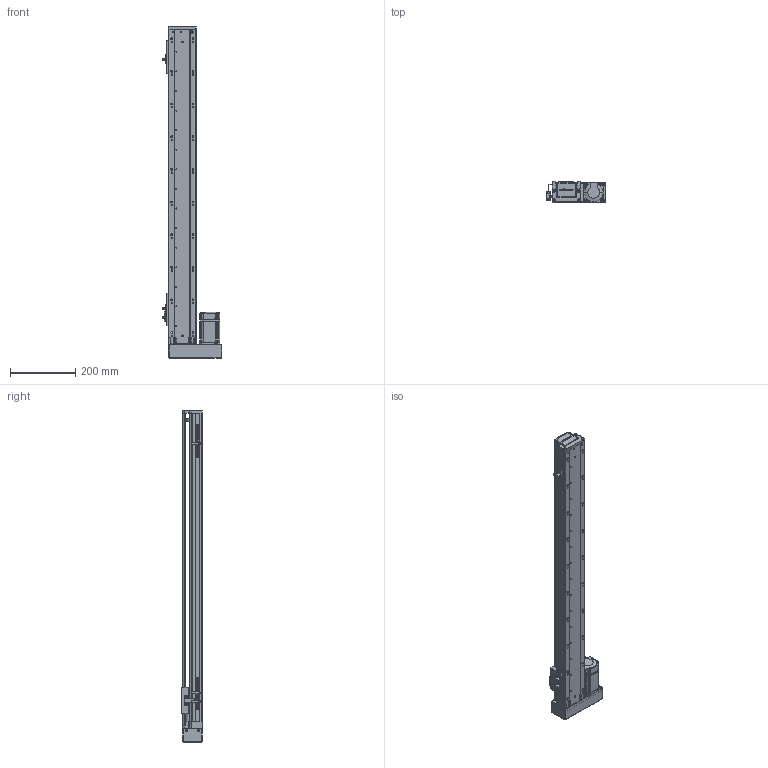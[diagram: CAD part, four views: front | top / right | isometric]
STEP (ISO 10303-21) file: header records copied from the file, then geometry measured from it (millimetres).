
FILE_DESCRIPTION (( 'STEP AP203' ), '1' );
FILE_NAME ('RY80-L1620-300-LK.SLDASM_800.step', '2021-02-20T07:17:17', ( '盈信电脑' ), ( '东莞市道滘镇水果街19号' ), 'SwSTEP 2.0', 'SolidWorks 2012', '' );
FILE_SCHEMA (( 'CONFIG_CONTROL_DESIGN' ));
Products named in the file (15): RY80-L1620-300-LK.SLDASM_800; 覜茼ん672; RY80俋离覜茼え; T倰羞; 滅袉蝶18-24; RY80酘莞萇儂假蚾啣; 侂狟200W萇儂; RY80酘殏俋欶; RY80转接电机端支撑座; RY80綴裔啣; 1; 滅袉蝶18-10; RY80-300蛌諉倰第菁釱-LK_800; RY80臏賑輸; RY80-300蛌諉倰第奻裔啣-LK_800
Assembly tree (17 placements, depth 3):
  RY80-L1620-300-LK.SLDASM_800
    RY80-300蛌諉倰第菁釱-LK_800
    RY80臏賑輸
    RY80-300蛌諉倰第奻裔啣-LK_800
    RY80綴裔啣
    滅袉蝶18-10
    RY80转接电机端支撑座
    侂狟200W萇儂
      1
    RY80酘莞萇儂假蚾啣
    RY80酘殏俋欶
    覜茼ん672  x3
    T倰羞  x2
    RY80俋离覜茼え
    滅袉蝶18-24
Bounding box: 181.7 x 65 x 1017 mm (x, y, z)
Volume: 1881598.5 mm3; surface area: 757832 mm2
Topology: 16 solids, 16 shells, 2306 faces, 6395 edges, 4145 vertices
Faces by surface type: plane 1203, cylinder 899, cone 142, bspline 62
Entity records: 74881 total; most frequent: CARTESIAN_POINT 20003, ORIENTED_EDGE 11478, DIRECTION 10518, EDGE_CURVE 5739, VERTEX_POINT 3761, AXIS2_PLACEMENT_3D 3552, LINE 3414, VECTOR 3414
